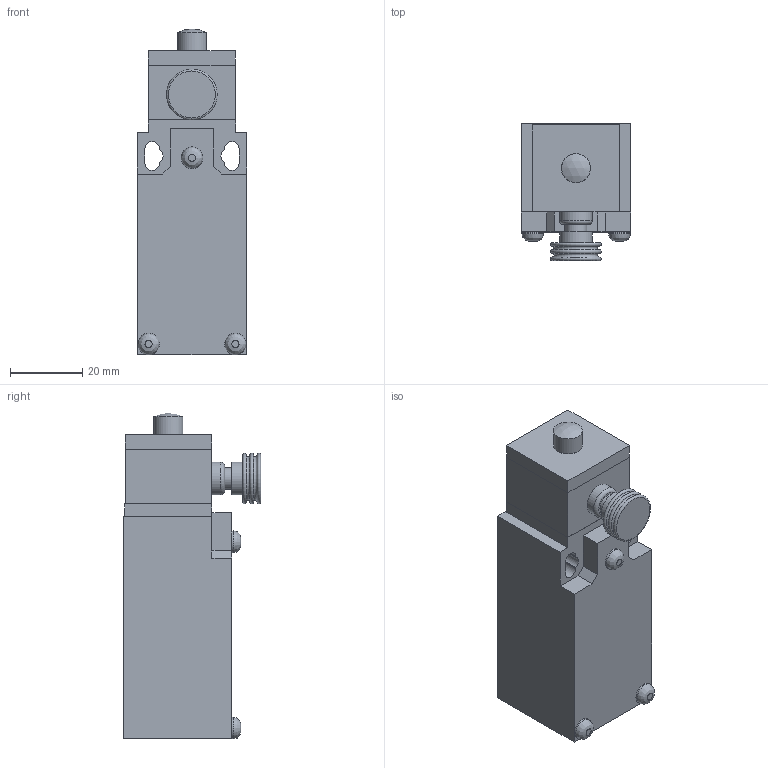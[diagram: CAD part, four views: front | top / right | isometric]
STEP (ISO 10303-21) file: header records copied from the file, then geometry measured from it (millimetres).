
FILE_DESCRIPTION((''),'2;1');
FILE_NAME('C:\Workarea\Disegni\Comepi\Catalogo\Stp\Finecorsa\AM1-R11.stp','2011-08-29T08:56:53',('Paolo'),(''),'Autodesk Inventor 2012','Autodesk Inventor 2012','');
FILE_SCHEMA(('AUTOMOTIVE_DESIGN { 1 0 10303 214 1 1 1 1 }'));
Length unit declared in the file: millimetre
Products named in the file (6): AM1-R11; AM1; R11; R; T10_1; T10_2
Assembly tree (5 placements, depth 3):
  AM1-R11
    AM1
    R11
      R
      T10_1
      T10_2
Bounding box: 30.3 x 38 x 90.1 mm (x, y, z)
Volume: 63166.3 mm3; surface area: 16584 mm2
Topology: 4 solids, 4 shells, 74 faces, 168 edges, 108 vertices
Faces by surface type: plane 49, cylinder 15, torus 6, bspline 3, sphere 1
Full cylindrical faces by diameter (mm): 6 x4, 8 x2, 9 x2, 20.4 x1
Entity records: 2274 total; most frequent: CARTESIAN_POINT 471, DIRECTION 352, ORIENTED_EDGE 296, EDGE_CURVE 148, AXIS2_PLACEMENT_3D 122, VECTOR 108, LINE 108, VERTEX_POINT 106
